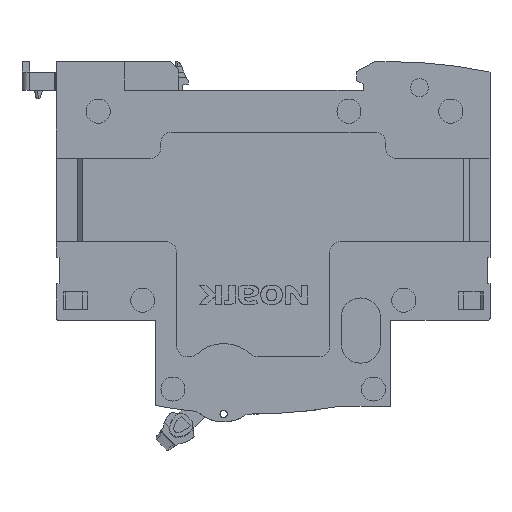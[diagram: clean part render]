
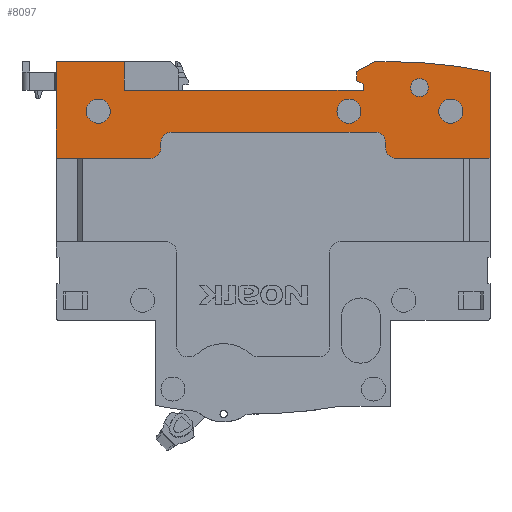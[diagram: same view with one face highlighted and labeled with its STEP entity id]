
A CAD part, front view. The second image highlights one B-rep face of the part: STEP entity #8097.
In plain terms, the highlighted planar face has unit normal (0, -1, 0).
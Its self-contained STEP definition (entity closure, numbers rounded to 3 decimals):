
#178=CARTESIAN_POINT('',(-15.8,-13.5,-9.5));
#179=DIRECTION('',(0.,-1.,0.));
#180=DIRECTION('',(1.,0.,0.));
#181=AXIS2_PLACEMENT_3D('',#178,#179,#180);
#183=CARTESIAN_POINT('',(-15.8,-13.5,-9.5));
#184=DIRECTION('',(0.,-1.,0.));
#185=DIRECTION('',(-1.,0.,0.));
#186=AXIS2_PLACEMENT_3D('',#183,#184,#185);
#188=CARTESIAN_POINT('',(-35.3,-13.5,-9.5));
#189=DIRECTION('',(0.,-1.,0.));
#190=DIRECTION('',(1.,0.,0.));
#191=AXIS2_PLACEMENT_3D('',#188,#189,#190);
#193=CARTESIAN_POINT('',(-35.3,-13.5,-9.5));
#194=DIRECTION('',(0.,-1.,0.));
#195=DIRECTION('',(-1.,0.,0.));
#196=AXIS2_PLACEMENT_3D('',#193,#194,#195);
#198=CARTESIAN_POINT('',(-21.8,-13.5,-5.));
#199=DIRECTION('',(0.,-1.,0.));
#200=DIRECTION('',(-1.,0.,0.));
#201=AXIS2_PLACEMENT_3D('',#198,#199,#200);
#203=CARTESIAN_POINT('',(-21.8,-13.5,-5.));
#204=DIRECTION('',(0.,-1.,0.));
#205=DIRECTION('',(1.,0.,0.));
#206=AXIS2_PLACEMENT_3D('',#203,#204,#205);
#208=CARTESIAN_POINT('',(-83.3,-13.5,-9.5));
#209=DIRECTION('',(0.,-1.,0.));
#210=DIRECTION('',(1.,0.,0.));
#211=AXIS2_PLACEMENT_3D('',#208,#209,#210);
#213=CARTESIAN_POINT('',(-83.3,-13.5,-9.5));
#214=DIRECTION('',(0.,-1.,0.));
#215=DIRECTION('',(-1.,0.,0.));
#216=AXIS2_PLACEMENT_3D('',#213,#214,#215);
#362=DIRECTION('',(-1.,0.,0.));
#363=VECTOR('',#362,18.001);
#364=CARTESIAN_POINT('',(-8.299,-13.5,-18.5));
#365=LINE('',#364,#363);
#366=CARTESIAN_POINT('',(-26.3,-13.5,-16.5));
#367=DIRECTION('',(0.,-1.,0.));
#368=DIRECTION('',(-1.,0.,0.));
#369=AXIS2_PLACEMENT_3D('',#366,#367,#368);
#371=DIRECTION('',(0.,0.,1.));
#372=VECTOR('',#371,1.);
#373=CARTESIAN_POINT('',(-28.3,-13.5,-16.5));
#374=LINE('',#373,#372);
#375=CARTESIAN_POINT('',(-30.3,-13.5,-15.5));
#376=DIRECTION('',(0.,-1.,0.));
#377=DIRECTION('',(1.,0.,0.));
#378=AXIS2_PLACEMENT_3D('',#375,#376,#377);
#380=DIRECTION('',(-1.,0.,0.));
#381=VECTOR('',#380,39.);
#382=CARTESIAN_POINT('',(-30.3,-13.5,-13.5));
#383=LINE('',#382,#381);
#384=CARTESIAN_POINT('',(-69.3,-13.5,-15.5));
#385=DIRECTION('',(0.,-1.,0.));
#386=DIRECTION('',(0.,0.,1.));
#387=AXIS2_PLACEMENT_3D('',#384,#385,#386);
#389=DIRECTION('',(0.,0.,-1.));
#390=VECTOR('',#389,1.);
#391=CARTESIAN_POINT('',(-71.3,-13.5,-15.5));
#392=LINE('',#391,#390);
#393=CARTESIAN_POINT('',(-73.3,-13.5,-16.5));
#394=DIRECTION('',(0.,-1.,0.));
#395=DIRECTION('',(0.,0.,-1.));
#396=AXIS2_PLACEMENT_3D('',#393,#394,#395);
#398=DIRECTION('',(1.,0.,0.));
#399=VECTOR('',#398,18.001);
#400=CARTESIAN_POINT('',(-91.301,-13.5,-18.5));
#401=LINE('',#400,#399);
#402=DIRECTION('',(0.,0.,1.));
#403=VECTOR('',#402,18.5);
#404=CARTESIAN_POINT('',(-91.301,-13.5,-18.5));
#405=LINE('',#404,#403);
#406=DIRECTION('',(1.,0.,0.));
#407=VECTOR('',#406,13.001);
#408=CARTESIAN_POINT('',(-91.301,-13.5,0.));
#409=LINE('',#408,#407);
#410=DIRECTION('',(0.,0.,1.));
#411=VECTOR('',#410,1.173);
#412=CARTESIAN_POINT('',(-32.6,-13.5,-5.5));
#413=LINE('',#412,#411);
#414=DIRECTION('',(-0.866,0.,0.5));
#415=VECTOR('',#414,1.386);
#416=CARTESIAN_POINT('',(-32.6,-13.5,-4.327));
#417=LINE('',#416,#415);
#418=DIRECTION('',(0.,0.,1.));
#419=VECTOR('',#418,1.7);
#420=CARTESIAN_POINT('',(-33.8,-13.5,-3.634));
#421=LINE('',#420,#419);
#422=DIRECTION('',(0.866,0.,0.5));
#423=VECTOR('',#422,3.868);
#424=CARTESIAN_POINT('',(-33.8,-13.5,-1.934));
#425=LINE('',#424,#423);
#426=DIRECTION('',(1.,0.,0.));
#427=VECTOR('',#426,2.65);
#428=CARTESIAN_POINT('',(-30.45,-13.5,0.));
#429=LINE('',#428,#427);
#430=CARTESIAN_POINT('',(-27.8,-13.5,-96.));
#431=DIRECTION('',(0.,1.,0.));
#432=DIRECTION('',(0.,0.,1.));
#433=AXIS2_PLACEMENT_3D('',#430,#431,#432);
#435=DIRECTION('',(0.,0.,-1.));
#436=VECTOR('',#435,16.499);
#437=CARTESIAN_POINT('',(-8.299,-13.5,-2.001));
#438=LINE('',#437,#436);
#5362=DIRECTION('',(0.,0.,1.));
#5363=VECTOR('',#5362,5.5);
#5364=CARTESIAN_POINT('',(-78.3,-13.5,-5.5));
#5365=LINE('',#5364,#5363);
#5394=DIRECTION('',(-1.,0.,0.));
#5395=VECTOR('',#5394,45.7);
#5396=CARTESIAN_POINT('',(-32.6,-13.5,-5.5));
#5397=LINE('',#5396,#5395);
#6240=CARTESIAN_POINT('',(-91.301,-13.5,0.));
#6241=CARTESIAN_POINT('',(-78.3,-13.5,0.));
#6242=VERTEX_POINT('',#6240);
#6243=VERTEX_POINT('',#6241);
#6244=CARTESIAN_POINT('',(-32.6,-13.5,-5.5));
#6245=CARTESIAN_POINT('',(-32.6,-13.5,-4.327));
#6246=VERTEX_POINT('',#6244);
#6247=VERTEX_POINT('',#6245);
#6248=CARTESIAN_POINT('',(-33.8,-13.5,-3.634));
#6249=VERTEX_POINT('',#6248);
#6250=CARTESIAN_POINT('',(-33.8,-13.5,-1.934));
#6251=VERTEX_POINT('',#6250);
#6252=CARTESIAN_POINT('',(-30.45,-13.5,0.));
#6253=VERTEX_POINT('',#6252);
#6254=CARTESIAN_POINT('',(-27.8,-13.5,0.));
#6255=VERTEX_POINT('',#6254);
#6256=CARTESIAN_POINT('',(-8.299,-13.5,-2.001));
#6257=VERTEX_POINT('',#6256);
#6476=CARTESIAN_POINT('',(-78.3,-13.5,-5.5));
#6477=VERTEX_POINT('',#6476);
#6574=CARTESIAN_POINT('',(-13.5,-13.5,-9.5));
#6575=CARTESIAN_POINT('',(-18.1,-13.5,-9.5));
#6576=VERTEX_POINT('',#6574);
#6577=VERTEX_POINT('',#6575);
#6578=CARTESIAN_POINT('',(-33.,-13.5,-9.5));
#6579=CARTESIAN_POINT('',(-37.6,-13.5,-9.5));
#6580=VERTEX_POINT('',#6578);
#6581=VERTEX_POINT('',#6579);
#6582=CARTESIAN_POINT('',(-23.5,-13.5,-5.));
#6583=CARTESIAN_POINT('',(-20.1,-13.5,-5.));
#6584=VERTEX_POINT('',#6582);
#6585=VERTEX_POINT('',#6583);
#6586=CARTESIAN_POINT('',(-81.,-13.5,-9.5));
#6587=CARTESIAN_POINT('',(-85.6,-13.5,-9.5));
#6588=VERTEX_POINT('',#6586);
#6589=VERTEX_POINT('',#6587);
#7271=CARTESIAN_POINT('',(-8.299,-13.5,-18.5));
#7272=CARTESIAN_POINT('',(-26.3,-13.5,-18.5));
#7273=VERTEX_POINT('',#7271);
#7274=VERTEX_POINT('',#7272);
#7275=CARTESIAN_POINT('',(-28.3,-13.5,-16.5));
#7276=VERTEX_POINT('',#7275);
#7277=CARTESIAN_POINT('',(-28.3,-13.5,-15.5));
#7278=VERTEX_POINT('',#7277);
#7279=CARTESIAN_POINT('',(-30.3,-13.5,-13.5));
#7280=VERTEX_POINT('',#7279);
#7281=CARTESIAN_POINT('',(-69.3,-13.5,-13.5));
#7282=VERTEX_POINT('',#7281);
#7283=CARTESIAN_POINT('',(-71.3,-13.5,-15.5));
#7284=VERTEX_POINT('',#7283);
#7285=CARTESIAN_POINT('',(-71.3,-13.5,-16.5));
#7286=VERTEX_POINT('',#7285);
#7287=CARTESIAN_POINT('',(-73.3,-13.5,-18.5));
#7288=VERTEX_POINT('',#7287);
#7289=CARTESIAN_POINT('',(-91.301,-13.5,-18.5));
#7290=VERTEX_POINT('',#7289);
#8026=CARTESIAN_POINT('',(0.,-13.5,0.));
#8027=DIRECTION('',(0.,1.,0.));
#8028=DIRECTION('',(1.,0.,0.));
#8029=AXIS2_PLACEMENT_3D('',#8026,#8027,#8028);
#8030=PLANE('',#8029);
#8032=ORIENTED_EDGE('',*,*,#8031,.T.);
#8034=ORIENTED_EDGE('',*,*,#8033,.F.);
#8036=ORIENTED_EDGE('',*,*,#8035,.T.);
#8038=ORIENTED_EDGE('',*,*,#8037,.T.);
#8040=ORIENTED_EDGE('',*,*,#8039,.T.);
#8042=ORIENTED_EDGE('',*,*,#8041,.T.);
#8044=ORIENTED_EDGE('',*,*,#8043,.T.);
#8046=ORIENTED_EDGE('',*,*,#8045,.F.);
#8048=ORIENTED_EDGE('',*,*,#8047,.F.);
#8050=ORIENTED_EDGE('',*,*,#8049,.T.);
#8052=ORIENTED_EDGE('',*,*,#8051,.T.);
#8054=ORIENTED_EDGE('',*,*,#8053,.F.);
#8056=ORIENTED_EDGE('',*,*,#8055,.F.);
#8058=ORIENTED_EDGE('',*,*,#8057,.T.);
#8060=ORIENTED_EDGE('',*,*,#8059,.T.);
#8062=ORIENTED_EDGE('',*,*,#8061,.T.);
#8064=ORIENTED_EDGE('',*,*,#8063,.T.);
#8066=ORIENTED_EDGE('',*,*,#8065,.T.);
#8068=ORIENTED_EDGE('',*,*,#8067,.T.);
#8070=ORIENTED_EDGE('',*,*,#8069,.T.);
#8071=EDGE_LOOP('',(#8032,#8034,#8036,#8038,#8040,#8042,#8044,#8046,#8048,#8050,
#8052,#8054,#8056,#8058,#8060,#8062,#8064,#8066,#8068,#8070));
#8072=FACE_OUTER_BOUND('',#8071,.F.);
#8074=ORIENTED_EDGE('',*,*,#8073,.T.);
#8076=ORIENTED_EDGE('',*,*,#8075,.T.);
#8077=EDGE_LOOP('',(#8074,#8076));
#8078=FACE_BOUND('',#8077,.F.);
#8080=ORIENTED_EDGE('',*,*,#8079,.T.);
#8082=ORIENTED_EDGE('',*,*,#8081,.T.);
#8083=EDGE_LOOP('',(#8080,#8082));
#8084=FACE_BOUND('',#8083,.F.);
#8086=ORIENTED_EDGE('',*,*,#8085,.T.);
#8088=ORIENTED_EDGE('',*,*,#8087,.T.);
#8089=EDGE_LOOP('',(#8086,#8088));
#8090=FACE_BOUND('',#8089,.F.);
#8092=ORIENTED_EDGE('',*,*,#8091,.T.);
#8094=ORIENTED_EDGE('',*,*,#8093,.T.);
#8095=EDGE_LOOP('',(#8092,#8094));
#8096=FACE_BOUND('',#8095,.F.);
#8097=ADVANCED_FACE('',(#8072,#8078,#8084,#8090,#8096),#8030,.F.);
#182=CIRCLE('',#181,2.3);
#187=CIRCLE('',#186,2.3);
#192=CIRCLE('',#191,2.3);
#197=CIRCLE('',#196,2.3);
#202=CIRCLE('',#201,1.7);
#207=CIRCLE('',#206,1.7);
#212=CIRCLE('',#211,2.3);
#217=CIRCLE('',#216,2.3);
#370=CIRCLE('',#369,2.);
#379=CIRCLE('',#378,2.);
#388=CIRCLE('',#387,2.);
#397=CIRCLE('',#396,2.);
#434=CIRCLE('',#433,96.);
#8031=EDGE_CURVE('',#7273,#7274,#365,.T.);
#8033=EDGE_CURVE('',#7276,#7274,#370,.T.);
#8035=EDGE_CURVE('',#7276,#7278,#374,.T.);
#8037=EDGE_CURVE('',#7278,#7280,#379,.T.);
#8039=EDGE_CURVE('',#7280,#7282,#383,.T.);
#8041=EDGE_CURVE('',#7282,#7284,#388,.T.);
#8043=EDGE_CURVE('',#7284,#7286,#392,.T.);
#8045=EDGE_CURVE('',#7288,#7286,#397,.T.);
#8047=EDGE_CURVE('',#7290,#7288,#401,.T.);
#8049=EDGE_CURVE('',#7290,#6242,#405,.T.);
#8051=EDGE_CURVE('',#6242,#6243,#409,.T.);
#8053=EDGE_CURVE('',#6477,#6243,#5365,.T.);
#8055=EDGE_CURVE('',#6246,#6477,#5397,.T.);
#8057=EDGE_CURVE('',#6246,#6247,#413,.T.);
#8059=EDGE_CURVE('',#6247,#6249,#417,.T.);
#8061=EDGE_CURVE('',#6249,#6251,#421,.T.);
#8063=EDGE_CURVE('',#6251,#6253,#425,.T.);
#8065=EDGE_CURVE('',#6253,#6255,#429,.T.);
#8067=EDGE_CURVE('',#6255,#6257,#434,.T.);
#8069=EDGE_CURVE('',#6257,#7273,#438,.T.);
#8073=EDGE_CURVE('',#6576,#6577,#182,.T.);
#8075=EDGE_CURVE('',#6577,#6576,#187,.T.);
#8079=EDGE_CURVE('',#6580,#6581,#192,.T.);
#8081=EDGE_CURVE('',#6581,#6580,#197,.T.);
#8085=EDGE_CURVE('',#6584,#6585,#202,.T.);
#8087=EDGE_CURVE('',#6585,#6584,#207,.T.);
#8091=EDGE_CURVE('',#6588,#6589,#212,.T.);
#8093=EDGE_CURVE('',#6589,#6588,#217,.T.);
